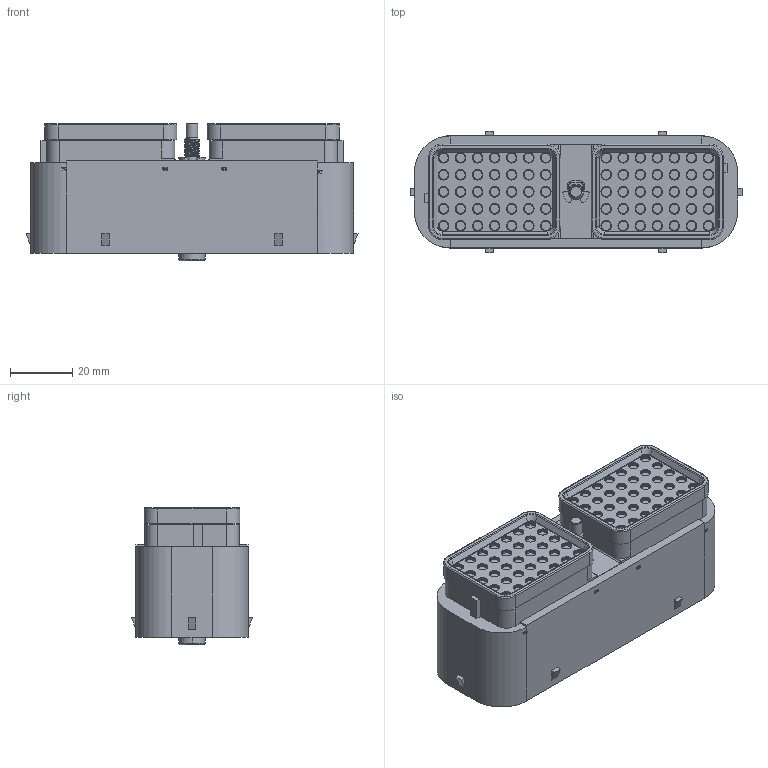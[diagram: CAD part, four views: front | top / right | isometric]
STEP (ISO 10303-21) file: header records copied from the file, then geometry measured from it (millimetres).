
FILE_DESCRIPTION((''),'2;1');
FILE_NAME('C-DRC16-70SA','2013-06-14T',('workeradm'),('Tyco Electronics Ltd.'),'PRO/ENGINEER BY PARAMETRIC TECHNOLOGY CORPORATION, 2011490','PRO/ENGINEER BY PARAMETRIC TECHNOLOGY CORPORATION, 2011490','');
FILE_SCHEMA(('AUTOMOTIVE_DESIGN { 1 0 10303 214 1 1 1 1 }'));
Products named in the file (1): C-DRC16-70SA
Bounding box: 106.88 x 38.99 x 44.32 mm (x, y, z)
Volume: 131351.9 mm3; surface area: 22012.8 mm2
Topology: 1 solids, 1 shells, 1858 faces, 4285 edges, 2632 vertices
Faces by surface type: cylinder 799, plane 732, cone 150, bspline 149, torus 28
Entity records: 57371 total; most frequent: CARTESIAN_POINT 14320, DIRECTION 9404, ORIENTED_EDGE 8542, EDGE_CURVE 4271, AXIS2_PLACEMENT_3D 3532, VERTEX_POINT 2625, VECTOR 2340, LINE 2340
